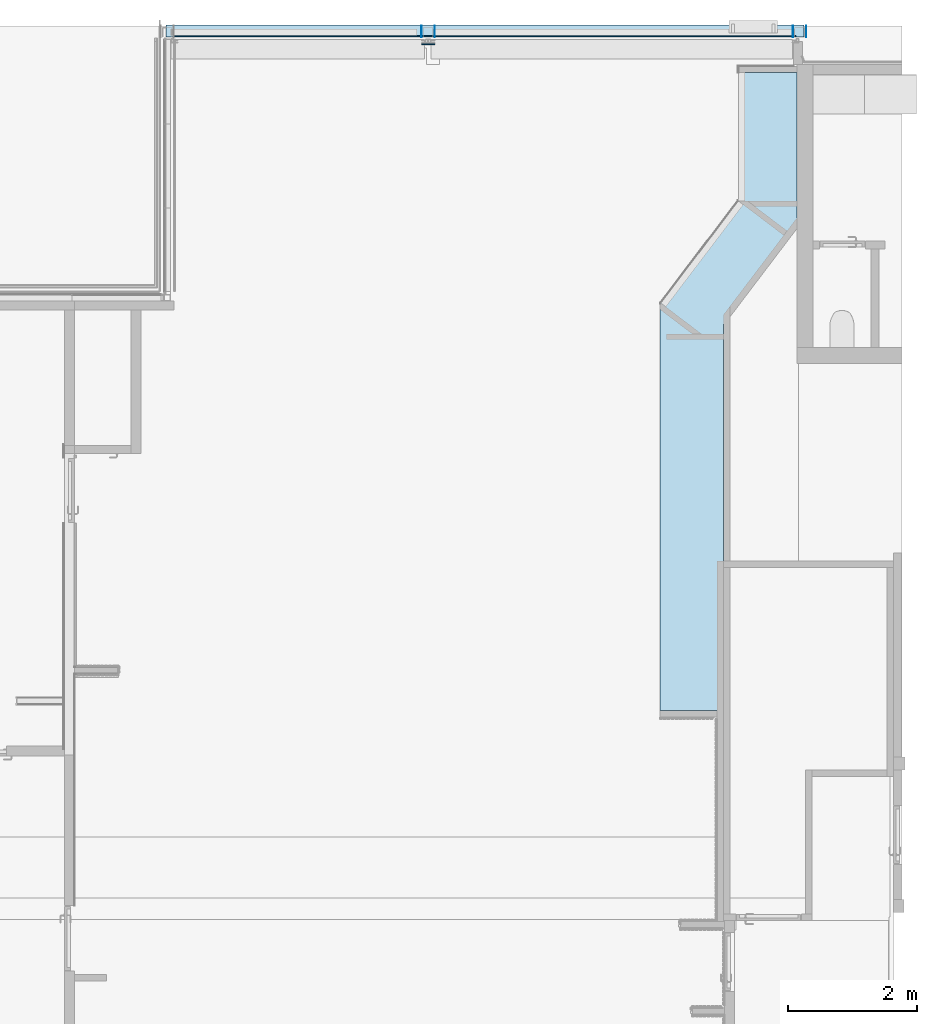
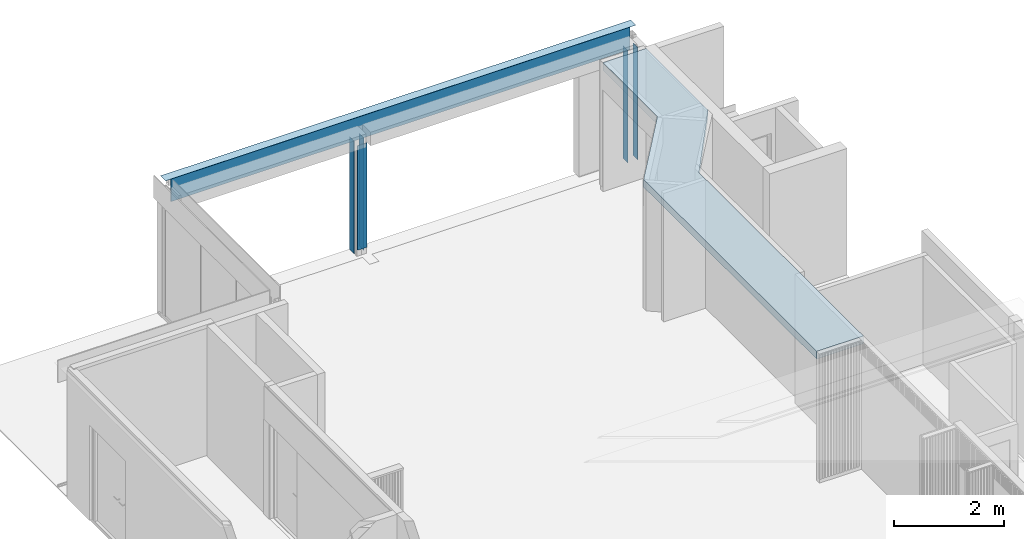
# One storey, part 17 of 37: 10 plates, 2 slabs, 11 elements without a shape of their own.
"""IFC2X3 building model written with IfcOpenShell, lengths in millimetres."""

from ifc_helpers import new_model, entity, si_unit, converted_unit, derived_unit, direction, frame, frame_2d, origin, origin_with_axes, origin_2d_with_axis, place, context, subcontext, project, spatial, polyline, rectangle, outline, extrude, source, transform, mapped, material, layer, layer_set, layer_usage, type_object, element, aggregate, save


model = new_model("IFC2X3")

# Units and contexts
model_context = context("Model", 3, precision=0.01, world=frame((0.0, 4.29681676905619e-09, 0.0)), true_north=direction((4.01073788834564e-13, 1.0)))
plan_context = context("Plan", 3, precision=0.01, world=frame((0.0, 4.29681676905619e-09, 0.0)), true_north=direction((4.01073788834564e-13, 1.0)))
body_context = subcontext(model_context, "Body", "Model", "MODEL_VIEW")
ifc_project = project(units=[converted_unit("PLANEANGLEUNIT", "DEGREE", entity("IfcPositiveLengthMeasure", 0.0174532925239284), si_unit("PLANEANGLEUNIT", "RADIAN"), dimensions=[0, 0, 0, 0, 0, 0, 0]), si_unit("AREAUNIT", "SQUARE_METRE"), si_unit("LENGTHUNIT", "METRE", prefix="MILLI"), si_unit("MASSUNIT", "GRAM", prefix="KILO"), si_unit("POWERUNIT", "WATT"), si_unit("PRESSUREUNIT", "PASCAL"), si_unit("FORCEUNIT", "NEWTON", prefix="KILO"), si_unit("ELECTRICVOLTAGEUNIT", "VOLT"), si_unit("ELECTRICCURRENTUNIT", "AMPERE"), si_unit("THERMODYNAMICTEMPERATUREUNIT", "DEGREE_CELSIUS"), si_unit("TIMEUNIT", "SECOND"), si_unit("VOLUMEUNIT", "CUBIC_METRE"), derived_unit("LINEARVELOCITYUNIT", [(si_unit("LENGTHUNIT", "METRE"), 1), (si_unit("TIMEUNIT", "SECOND"), -1)]), derived_unit("VOLUMETRICFLOWRATEUNIT", [(si_unit("VOLUMEUNIT", "CUBIC_METRE"), 1), (si_unit("TIMEUNIT", "SECOND"), -1)]), derived_unit("THERMALTRANSMITTANCEUNIT", [(si_unit("POWERUNIT", "WATT"), 1), (si_unit("THERMODYNAMICTEMPERATUREUNIT", "KELVIN"), -1), (si_unit("AREAUNIT", "SQUARE_METRE"), -1)]), derived_unit("SOUNDPRESSUREUNIT", [(si_unit("PRESSUREUNIT", "PASCAL"), 1)])], contexts=[model_context, plan_context])

# Site, building, storey
site_placement = place(None, origin_with_axes())
site = spatial("IfcSite", under=ifc_project, at=site_placement, Name="ENGM", CompositionType="ELEMENT")
building_placement = place(site_placement, origin_with_axes())
building = spatial("IfcBuilding", under=site, at=building_placement, Name="TS", CompositionType="ELEMENT")
storey_placement = place(building_placement, frame((0.0, 0.0, 210900.0), z_axis=(0.0, 0.0, 1.0), x_axis=(1.0, 0.0, 0.0)))
storey = spatial("IfcBuildingStorey", under=building, at=storey_placement, Name="Nivå F", CompositionType="ELEMENT", Elevation=210900.0)

# Curtain wall, plate
curtain_wall_type_1 = type_object("IfcCurtainWallType", Name="Curtain Wall:A245 - IMK - Metal Kledning", PredefinedType="NOTDEFINED")
curtain_wall_1_placement = place(storey_placement, frame((0.0, 0.0, -210900.0), z_axis=(0.0, 0.0, 1.0), x_axis=(1.0, 0.0, 0.0)))
curtain_wall_1 = element("IfcCurtainWall", 1, at=curtain_wall_1_placement, inside=storey, type_object=curtain_wall_type_1, Name="Curtain Wall:A245 - IMK - Metal Kledning", ObjectType="Curtain Wall:A245 - IMK - Metal Kledning")
ifc_material_1 = material(Name="Metal - Preget plate")
plate_type_1 = type_object("IfcPlateType", Name="System Panel:A245 - KL-M00 - - - skal byttes manuelt", PredefinedType="CURTAIN_PANEL", material=ifc_material_1)
shared_shape_1 = source(origin(), body_context, "Body", "SweptSolid", [
    extrude(rectangle(XDim=20.0, YDim=9619.99999999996, at=origin_2d_with_axis()), frame((0.0, -10.0, 0.0), z_axis=(0.0, 0.0, 1.0), x_axis=(0.0, 1.0, 0.0)), (0.0, 0.0, 1.0), 499.99999999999),
])
plate_1_placement = place(curtain_wall_1_placement, frame((529871.164085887, 461729.999999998, 213400.0), z_axis=(0.0, 0.0, 1.0), x_axis=(-1.0, 0.0, 0.0)))
plate_1 = element("IfcPlate", 2, at=plate_1_placement, type_object=plate_type_1, material=ifc_material_1, Name="System Panel:A245 - KL-M00 - - - skal byttes manuelt", ObjectType="System Panel:A245 - KL-M00 - - - skal byttes manuelt", context=body_context, shape_type="MappedRepresentation", body=[
    mapped(shared_shape_1, transform((0.0, 0.0, 0.0), scale=1.0)),
])
aggregate(curtain_wall_1, [plate_1])

curtain_wall_2_placement = place(storey_placement, frame((0.0, 0.0, -210900.0), z_axis=(0.0, 0.0, 1.0), x_axis=(1.0, 0.0, 0.0)))
curtain_wall_2 = element("IfcCurtainWall", 3, at=curtain_wall_2_placement, inside=storey, type_object=curtain_wall_type_1, Name="Curtain Wall:A245 - IMK - Metal Kledning", ObjectType="Curtain Wall:A245 - IMK - Metal Kledning")
plate_type_2 = type_object("IfcPlateType", Name="System Panel:A245 - KL-M00 - - - skal byttes manuelt", PredefinedType="CURTAIN_PANEL", material=ifc_material_1)
shared_shape_2 = source(origin(), body_context, "Body", "SweptSolid", [
    extrude(rectangle(XDim=20.0, YDim=200.000000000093, at=origin_2d_with_axis()), frame((0.0, -10.0, 0.0), z_axis=(0.0, 0.0, 1.0), x_axis=(0.0, 1.0, 0.0)), (0.0, 0.0, 1.0), 2309.99999999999),
])
plate_2_placement = place(curtain_wall_2_placement, frame((529000.000000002, 461629.999999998, 211050.0), z_axis=(0.0, 0.0, 1.0), x_axis=(1.0, 0.0, 0.0)))
plate_2 = element("IfcPlate", 4, at=plate_2_placement, type_object=plate_type_2, material=ifc_material_1, Name="System Panel:A245 - KL-M00 - - - skal byttes manuelt", ObjectType="System Panel:A245 - KL-M00 - - - skal byttes manuelt", context=body_context, shape_type="MappedRepresentation", body=[
    mapped(shared_shape_2, transform((0.0, 0.0, 0.0), scale=1.0)),
])
aggregate(curtain_wall_2, [plate_2])

curtain_wall_type_2 = type_object("IfcCurtainWallType", Name="Curtain Wall:A245 - IMK - Metal Kledning 3mm", PredefinedType="NOTDEFINED")
curtain_wall_3_placement = place(storey_placement, frame((0.0, 0.0, -210900.0), z_axis=(0.0, 0.0, 1.0), x_axis=(1.0, 0.0, 0.0)))
curtain_wall_3 = element("IfcCurtainWall", 5, at=curtain_wall_3_placement, inside=storey, type_object=curtain_wall_type_2, Name="Curtain Wall:A245 - IMK - Metal Kledning 3mm", ObjectType="Curtain Wall:A245 - IMK - Metal Kledning 3mm")
ifc_material_2 = material(Name="T2_Metal_Aluminium")
plate_type_3 = type_object("IfcPlateType", Name="System Panel:A245 - KL-M01 - Veggkledning metallplate plan", PredefinedType="CURTAIN_PANEL", material=ifc_material_2)
shared_shape_3 = source(origin(), body_context, "Body", "SweptSolid", [
    extrude(rectangle(XDim=3.0, YDim=175.000000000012, at=origin_2d_with_axis()), frame((0.0, 1.5, 0.0), z_axis=(0.0, 0.0, 1.0), x_axis=(0.0, 1.0, 0.0)), (0.0, 0.0, 1.0), 2499.99999999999),
])
plate_3_placement = place(curtain_wall_3_placement, frame((528900.000000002, 461812.499999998, 210900.0), z_axis=(0.0, 0.0, 1.0), x_axis=(0.0, 1.0, 0.0)))
plate_3 = element("IfcPlate", 6, at=plate_3_placement, type_object=plate_type_3, material=ifc_material_2, Name="System Panel:A245 - KL-M01 - Veggkledning metallplate plan", ObjectType="System Panel:A245 - KL-M01 - Veggkledning metallplate plan", context=body_context, shape_type="MappedRepresentation", body=[
    mapped(shared_shape_3, transform((0.0, 0.0, 0.0), scale=1.0)),
])
aggregate(curtain_wall_3, [plate_3])

curtain_wall_4_placement = place(storey_placement, frame((0.0, 0.0, -210900.0), z_axis=(0.0, 0.0, 1.0), x_axis=(1.0, 0.0, 0.0)))
curtain_wall_4 = element("IfcCurtainWall", 7, at=curtain_wall_4_placement, inside=storey, type_object=curtain_wall_type_2, Name="Curtain Wall:A245 - IMK - Metal Kledning 3mm", ObjectType="Curtain Wall:A245 - IMK - Metal Kledning 3mm")
plate_4_placement = place(curtain_wall_4_placement, frame((534640.000000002, 461812.499999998, 210900.0), z_axis=(0.0, 0.0, 1.0), x_axis=(0.0, 1.0, 0.0)))
plate_4 = element("IfcPlate", 8, at=plate_4_placement, type_object=plate_type_3, material=ifc_material_2, Name="System Panel:A245 - KL-M01 - Veggkledning metallplate plan", ObjectType="System Panel:A245 - KL-M01 - Veggkledning metallplate plan", context=body_context, shape_type="MappedRepresentation", body=[
    mapped(shared_shape_3, transform((0.0, 0.0, 0.0), scale=1.0)),
])
aggregate(curtain_wall_4, [plate_4])

curtain_wall_5_placement = place(storey_placement, frame((0.0, 0.0, -210900.0), z_axis=(0.0, 0.0, 1.0), x_axis=(1.0, 0.0, 0.0)))
curtain_wall_5 = element("IfcCurtainWall", 9, at=curtain_wall_5_placement, inside=storey, type_object=curtain_wall_type_2, Name="Curtain Wall:A245 - IMK - Metal Kledning 3mm", ObjectType="Curtain Wall:A245 - IMK - Metal Kledning 3mm")
plate_5_placement = place(curtain_wall_5_placement, frame((528900.000000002, 461812.499999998, 210900.0), z_axis=(0.0, 0.0, 1.0), x_axis=(0.0, 1.0, 0.0)))
plate_5 = element("IfcPlate", 10, at=plate_5_placement, type_object=plate_type_3, material=ifc_material_2, Name="System Panel:A245 - KL-M01 - Veggkledning metallplate plan", ObjectType="System Panel:A245 - KL-M01 - Veggkledning metallplate plan", context=body_context, shape_type="MappedRepresentation", body=[
    mapped(shared_shape_3, transform((0.0, 0.0, 0.0), scale=1.0)),
])
aggregate(curtain_wall_5, [plate_5])

curtain_wall_6_placement = place(storey_placement, frame((0.0, 0.0, -210900.0), z_axis=(0.0, 0.0, 1.0), x_axis=(1.0, 0.0, 0.0)))
curtain_wall_6 = element("IfcCurtainWall", 11, at=curtain_wall_6_placement, inside=storey, type_object=curtain_wall_type_2, Name="Curtain Wall:A245 - IMK - Metal Kledning 3mm", ObjectType="Curtain Wall:A245 - IMK - Metal Kledning 3mm")
plate_6_placement = place(curtain_wall_6_placement, frame((534640.000000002, 461812.499999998, 210900.0), z_axis=(0.0, 0.0, 1.0), x_axis=(0.0, 1.0, 0.0)))
plate_6 = element("IfcPlate", 12, at=plate_6_placement, type_object=plate_type_3, material=ifc_material_2, Name="System Panel:A245 - KL-M01 - Veggkledning metallplate plan", ObjectType="System Panel:A245 - KL-M01 - Veggkledning metallplate plan", context=body_context, shape_type="MappedRepresentation", body=[
    mapped(shared_shape_3, transform((0.0, 0.0, 0.0), scale=1.0)),
])
aggregate(curtain_wall_6, [plate_6])

curtain_wall_7_placement = place(storey_placement, frame((0.0, 0.0, -210900.0), z_axis=(0.0, 0.0, 1.0), x_axis=(1.0, 0.0, 0.0)))
curtain_wall_7 = element("IfcCurtainWall", 13, at=curtain_wall_7_placement, inside=storey, type_object=curtain_wall_type_2, Name="Curtain Wall:A245 - IMK - Metal Kledning 3mm", ObjectType="Curtain Wall:A245 - IMK - Metal Kledning 3mm")
plate_type_4 = type_object("IfcPlateType", Name="System Panel:A245 - KL-M01 - Veggkledning metallplate plan", PredefinedType="CURTAIN_PANEL", material=ifc_material_2)
shared_shape_4 = source(origin(), body_context, "Body", "SweptSolid", [
    extrude(rectangle(XDim=3.0, YDim=175.000000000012, at=origin_2d_with_axis()), frame((0.0, -1.5, 0.0), z_axis=(0.0, 0.0, 1.0), x_axis=(0.0, 1.0, 0.0)), (0.0, 0.0, 1.0), 2499.99999999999),
])
plate_7_placement = place(curtain_wall_7_placement, frame((529100.000000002, 461812.499999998, 210900.0), z_axis=(0.0, 0.0, 1.0), x_axis=(0.0, 1.0, 0.0)))
plate_7 = element("IfcPlate", 14, at=plate_7_placement, type_object=plate_type_4, material=ifc_material_2, Name="System Panel:A245 - KL-M01 - Veggkledning metallplate plan", ObjectType="System Panel:A245 - KL-M01 - Veggkledning metallplate plan", context=body_context, shape_type="MappedRepresentation", body=[
    mapped(shared_shape_4, transform((0.0, 0.0, 0.0), scale=1.0)),
])
aggregate(curtain_wall_7, [plate_7])

curtain_wall_8_placement = place(storey_placement, frame((0.0, 0.0, -210900.0), z_axis=(0.0, 0.0, 1.0), x_axis=(1.0, 0.0, 0.0)))
curtain_wall_8 = element("IfcCurtainWall", 15, at=curtain_wall_8_placement, inside=storey, type_object=curtain_wall_type_2, Name="Curtain Wall:A245 - IMK - Metal Kledning 3mm", ObjectType="Curtain Wall:A245 - IMK - Metal Kledning 3mm")
plate_8_placement = place(curtain_wall_8_placement, frame((534840.000000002, 461812.499999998, 210900.0), z_axis=(0.0, 0.0, 1.0), x_axis=(0.0, 1.0, 0.0)))
plate_8 = element("IfcPlate", 16, at=plate_8_placement, type_object=plate_type_4, material=ifc_material_2, Name="System Panel:A245 - KL-M01 - Veggkledning metallplate plan", ObjectType="System Panel:A245 - KL-M01 - Veggkledning metallplate plan", context=body_context, shape_type="MappedRepresentation", body=[
    mapped(shared_shape_4, transform((0.0, 0.0, 0.0), scale=1.0)),
])
aggregate(curtain_wall_8, [plate_8])

curtain_wall_9_placement = place(storey_placement, frame((0.0, 0.0, -210900.0), z_axis=(0.0, 0.0, 1.0), x_axis=(1.0, 0.0, 0.0)))
curtain_wall_9 = element("IfcCurtainWall", 17, at=curtain_wall_9_placement, inside=storey, type_object=curtain_wall_type_2, Name="Curtain Wall:A245 - IMK - Metal Kledning 3mm", ObjectType="Curtain Wall:A245 - IMK - Metal Kledning 3mm")
plate_9_placement = place(curtain_wall_9_placement, frame((529100.000000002, 461812.499999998, 210900.0), z_axis=(0.0, 0.0, 1.0), x_axis=(0.0, 1.0, 0.0)))
plate_9 = element("IfcPlate", 18, at=plate_9_placement, type_object=plate_type_4, material=ifc_material_2, Name="System Panel:A245 - KL-M01 - Veggkledning metallplate plan", ObjectType="System Panel:A245 - KL-M01 - Veggkledning metallplate plan", context=body_context, shape_type="MappedRepresentation", body=[
    mapped(shared_shape_4, transform((0.0, 0.0, 0.0), scale=1.0)),
])
aggregate(curtain_wall_9, [plate_9])

curtain_wall_10_placement = place(storey_placement, frame((0.0, 0.0, -210900.0), z_axis=(0.0, 0.0, 1.0), x_axis=(1.0, 0.0, 0.0)))
curtain_wall_10 = element("IfcCurtainWall", 19, at=curtain_wall_10_placement, inside=storey, type_object=curtain_wall_type_2, Name="Curtain Wall:A245 - IMK - Metal Kledning 3mm", ObjectType="Curtain Wall:A245 - IMK - Metal Kledning 3mm")
plate_10_placement = place(curtain_wall_10_placement, frame((534840.000000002, 461812.499999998, 210900.0), z_axis=(0.0, 0.0, 1.0), x_axis=(0.0, 1.0, 0.0)))
plate_10 = element("IfcPlate", 20, at=plate_10_placement, type_object=plate_type_4, material=ifc_material_2, Name="System Panel:A245 - KL-M01 - Veggkledning metallplate plan", ObjectType="System Panel:A245 - KL-M01 - Veggkledning metallplate plan", context=body_context, shape_type="MappedRepresentation", body=[
    mapped(shared_shape_4, transform((0.0, 0.0, 0.0), scale=1.0)),
])
aggregate(curtain_wall_10, [plate_10])

# Slab
ifc_material_3 = material(Name="T2_Gips Standard")
ifc_layer_1 = layer(ifc_material_3, 12.5)
ifc_material_4 = material(Name="T2 - Kryssfiner")
ifc_layer_2 = layer(ifc_material_4, 12.0)
ifc_material_5 = material(Name="Default")
ifc_layer_3 = layer(ifc_material_5, 148.0)
ifc_layer_set_1 = layer_set([ifc_layer_1, ifc_layer_2, ifc_layer_3], Name="Floor:A251 - Innvendig lettak WHS")
ifc_layer_usage = layer_usage(ifc_layer_set_1, "AXIS3", "POSITIVE", 0.0)
slab_type = type_object("IfcSlabType", Name="Floor:A251 - Innvendig lettak WHS", PredefinedType="FLOOR", material=ifc_layer_set_1)
slab_1_placement = place(storey_placement, origin_with_axes())
element("IfcSlab", 21, at=slab_1_placement, inside=storey, type_object=slab_type, material=ifc_layer_usage, Name="Floor:A251 - Innvendig lettak WHS", ObjectType="Floor:A251 - Innvendig lettak WHS", PredefinedType="FLOOR", context=body_context, shape_type="SweptSolid", body=[
    extrude(outline(polyline([(-5930.68441124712, -1074.73474180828), (355.308713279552, -1074.73474180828), (1951.42134152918, 135.452146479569), (3924.15693024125, 135.45214647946), (3924.1569302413, 1035.39129766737), (1665.27367407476, 1035.39129766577), (41.0512331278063, -96.1087023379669), (-5930.68441124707, -96.1087023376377), (-5930.68441124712, -1074.73474180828)])), frame((533661.608702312, 457250.843069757, 2860.0), z_axis=(0.0, 0.0, -1.0), x_axis=(0.0, 1.0, 0.0)), (0.0, 0.0, 1.0), 172.500000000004),
])

# Roof, slab
ifc_material_6 = material(Name="NO_Stål")
ifc_layer_4 = layer(ifc_material_6, 1.5)
ifc_layer_set_2 = layer_set([ifc_layer_4], Name="Basic Roof:A261 - stålplate - 1,5")
roof_placement = place(storey_placement, frame((524948.69226286, 461729.999999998, 3000.0), z_axis=(0.0, 0.0, 1.0), x_axis=(1.0, 0.0, 0.0)))
roof = element("IfcRoof", 22, at=roof_placement, inside=storey, material=ifc_layer_set_2, Name="Basic Roof:A261 - stålplate - 1,5", ObjectType="Basic Roof:A261 - stålplate - 1,5", ShapeType="NOTDEFINED")
slab_2_placement = place(roof_placement, origin_with_axes())
slab_2 = element("IfcSlab", 23, at=slab_2_placement, material=ifc_layer_set_2, Name="Basic Roof:A261 - stålplate - 1,5", ObjectType="Basic Roof:A261 - stålplate - 1,5", PredefinedType="ROOF", context=body_context, shape_type="SweptSolid", body=[
    extrude(rectangle(XDim=184.999999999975, YDim=9859.30773711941, at=frame_2d((0.0, 3.46531692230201e-11), x_axis=(0.0, -1.0))), frame((4929.6538685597, 92.4999999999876, 0.0)), (0.0, 0.0, 1.0), 1.499999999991),
])
aggregate(roof, [slab_2])

save(model, "model.ifc")
